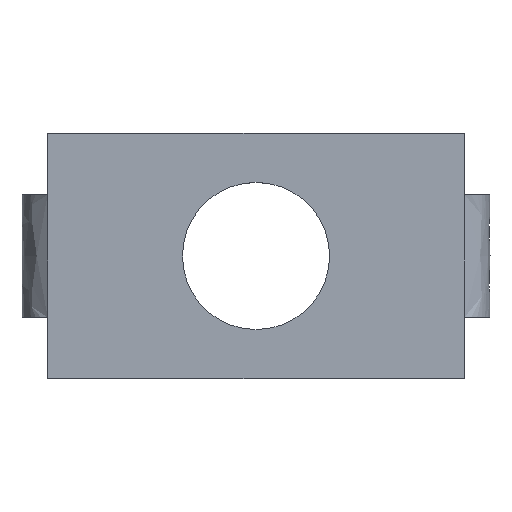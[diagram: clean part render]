
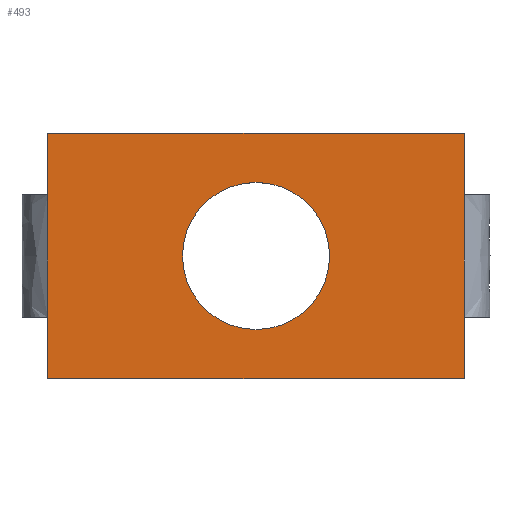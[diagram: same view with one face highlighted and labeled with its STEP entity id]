
A CAD part, top view. The second image highlights one B-rep face of the part: STEP entity #493.
In plain terms, the highlighted planar face has unit normal (0, 0, 1).
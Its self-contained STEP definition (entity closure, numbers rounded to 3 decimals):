
#4 = CARTESIAN_POINT ( 'NONE',  ( 14.767, -2.384, 1. ) ) ;
#20 = CARTESIAN_POINT ( 'NONE',  ( 3.267, 0.116, 1. ) ) ;
#40 = VECTOR ( 'NONE', #488, 1000. ) ;
#44 = DIRECTION ( 'NONE',  ( 1., 0., 0. ) ) ;
#45 = DIRECTION ( 'NONE',  ( 1., 0., 0. ) ) ;
#61 = LINE ( 'NONE', #466, #477 ) ;
#62 = CARTESIAN_POINT ( 'NONE',  ( 14.767, 5.116, 1. ) ) ;
#76 = LINE ( 'NONE', #174, #476 ) ;
#78 = LINE ( 'NONE', #377, #40 ) ;
#94 = VERTEX_POINT ( 'NONE', #161 ) ;
#97 = LINE ( 'NONE', #662, #120 ) ;
#103 = DIRECTION ( 'NONE',  ( 0., -1., 0. ) ) ;
#105 = ORIENTED_EDGE ( 'NONE', *, *, #634, .F. ) ;
#120 = VECTOR ( 'NONE', #44, 1000. ) ;
#122 = ORIENTED_EDGE ( 'NONE', *, *, #512, .T. ) ;
#131 = CARTESIAN_POINT ( 'NONE',  ( -2.233, -4.884, 1. ) ) ;
#133 = DIRECTION ( 'NONE',  ( 0., 1., 0. ) ) ;
#154 = DIRECTION ( 'NONE',  ( 0., 0., 1. ) ) ;
#159 = DIRECTION ( 'NONE',  ( 1., 0., 0. ) ) ;
#161 = CARTESIAN_POINT ( 'NONE',  ( -2.233, -2.384, 1. ) ) ;
#162 = DIRECTION ( 'NONE',  ( 0., 0., 1. ) ) ;
#174 = CARTESIAN_POINT ( 'NONE',  ( -2.233, -2.384, 1. ) ) ;
#177 = VERTEX_POINT ( 'NONE', #62 ) ;
#184 = CARTESIAN_POINT ( 'NONE',  ( 14.767, -2.384, 1. ) ) ;
#187 = VECTOR ( 'NONE', #385, 1000. ) ;
#188 = CARTESIAN_POINT ( 'NONE',  ( 9.267, 0.116, 1. ) ) ;
#193 = VERTEX_POINT ( 'NONE', #4 ) ;
#200 = CARTESIAN_POINT ( 'NONE',  ( 0., 0., 1. ) ) ;
#201 = EDGE_CURVE ( 'NONE', #94, #523, #76, .T. ) ;
#202 = CARTESIAN_POINT ( 'NONE',  ( 6.267, 0.116, 1. ) ) ;
#206 = CARTESIAN_POINT ( 'NONE',  ( -2.233, 2.616, 1. ) ) ;
#216 = VECTOR ( 'NONE', #380, 1000. ) ;
#225 = FACE_BOUND ( 'NONE', #352, .T. ) ;
#245 = FACE_OUTER_BOUND ( 'NONE', #601, .T. ) ;
#265 = LINE ( 'NONE', #268, #678 ) ;
#268 = CARTESIAN_POINT ( 'NONE',  ( -2.233, 5.116, 1. ) ) ;
#278 = CARTESIAN_POINT ( 'NONE',  ( -2.233, 5.116, 1. ) ) ;
#283 = EDGE_CURVE ( 'NONE', #177, #400, #595, .T. ) ;
#302 = CIRCLE ( 'NONE', #567, 3. ) ;
#303 = DIRECTION ( 'NONE',  ( 0., 0., 1. ) ) ;
#306 = DIRECTION ( 'NONE',  ( 1., 0., 0. ) ) ;
#317 = CARTESIAN_POINT ( 'NONE',  ( 14.767, -4.884, 1. ) ) ;
#352 = EDGE_LOOP ( 'NONE', ( #619, #105 ) ) ;
#354 = AXIS2_PLACEMENT_3D ( 'NONE', #501, #303, #306 ) ;
#371 = CARTESIAN_POINT ( 'NONE',  ( 14.767, 5.116, 1. ) ) ;
#372 = ORIENTED_EDGE ( 'NONE', *, *, #568, .T. ) ;
#375 = VECTOR ( 'NONE', #133, 1000. ) ;
#377 = CARTESIAN_POINT ( 'NONE',  ( -2.233, 5.116, 1. ) ) ;
#380 = DIRECTION ( 'NONE',  ( 0., 1., 0. ) ) ;
#385 = DIRECTION ( 'NONE',  ( -1., 0., 0. ) ) ;
#393 = AXIS2_PLACEMENT_3D ( 'NONE', #200, #162, #159 ) ;
#400 = VERTEX_POINT ( 'NONE', #278 ) ;
#401 = EDGE_CURVE ( 'NONE', #400, #523, #265, .T. ) ;
#404 = ORIENTED_EDGE ( 'NONE', *, *, #201, .F. ) ;
#430 = VERTEX_POINT ( 'NONE', #443 ) ;
#435 = VERTEX_POINT ( 'NONE', #20 ) ;
#436 = EDGE_CURVE ( 'NONE', #451, #435, #560, .T. ) ;
#443 = CARTESIAN_POINT ( 'NONE',  ( 14.767, 2.616, 1. ) ) ;
#451 = VERTEX_POINT ( 'NONE', #188 ) ;
#452 = ORIENTED_EDGE ( 'NONE', *, *, #591, .T. ) ;
#456 = EDGE_CURVE ( 'NONE', #652, #647, #97, .T. ) ;
#466 = CARTESIAN_POINT ( 'NONE',  ( 14.767, 5.116, 1. ) ) ;
#476 = VECTOR ( 'NONE', #549, 1000. ) ;
#477 = VECTOR ( 'NONE', #636, 1000. ) ;
#483 = EDGE_CURVE ( 'NONE', #193, #430, #503, .T. ) ;
#488 = DIRECTION ( 'NONE',  ( 0., -1., 0. ) ) ;
#493 = ADVANCED_FACE ( 'NONE', ( #225, #245 ), #686, .T. ) ;
#501 = CARTESIAN_POINT ( 'NONE',  ( 6.267, 0.116, 1. ) ) ;
#503 = LINE ( 'NONE', #184, #375 ) ;
#512 = EDGE_CURVE ( 'NONE', #647, #193, #626, .T. ) ;
#514 = ORIENTED_EDGE ( 'NONE', *, *, #283, .T. ) ;
#523 = VERTEX_POINT ( 'NONE', #206 ) ;
#549 = DIRECTION ( 'NONE',  ( 0., 1., 0. ) ) ;
#560 = CIRCLE ( 'NONE', #354, 3. ) ;
#565 = ORIENTED_EDGE ( 'NONE', *, *, #456, .T. ) ;
#567 = AXIS2_PLACEMENT_3D ( 'NONE', #202, #154, #45 ) ;
#568 = EDGE_CURVE ( 'NONE', #430, #177, #61, .T. ) ;
#591 = EDGE_CURVE ( 'NONE', #94, #652, #78, .T. ) ;
#595 = LINE ( 'NONE', #596, #187 ) ;
#596 = CARTESIAN_POINT ( 'NONE',  ( -2.233, 5.116, 1. ) ) ;
#601 = EDGE_LOOP ( 'NONE', ( #645, #404, #452, #565, #122, #631, #372, #514 ) ) ;
#619 = ORIENTED_EDGE ( 'NONE', *, *, #436, .F. ) ;
#626 = LINE ( 'NONE', #371, #216 ) ;
#631 = ORIENTED_EDGE ( 'NONE', *, *, #483, .T. ) ;
#634 = EDGE_CURVE ( 'NONE', #435, #451, #302, .T. ) ;
#636 = DIRECTION ( 'NONE',  ( 0., 1., 0. ) ) ;
#645 = ORIENTED_EDGE ( 'NONE', *, *, #401, .T. ) ;
#647 = VERTEX_POINT ( 'NONE', #317 ) ;
#652 = VERTEX_POINT ( 'NONE', #131 ) ;
#662 = CARTESIAN_POINT ( 'NONE',  ( -2.233, -4.884, 1. ) ) ;
#678 = VECTOR ( 'NONE', #103, 1000. ) ;
#686 = PLANE ( 'NONE',  #393 ) ;
